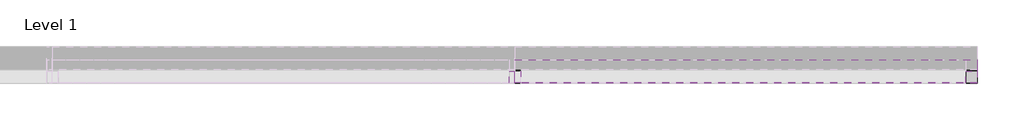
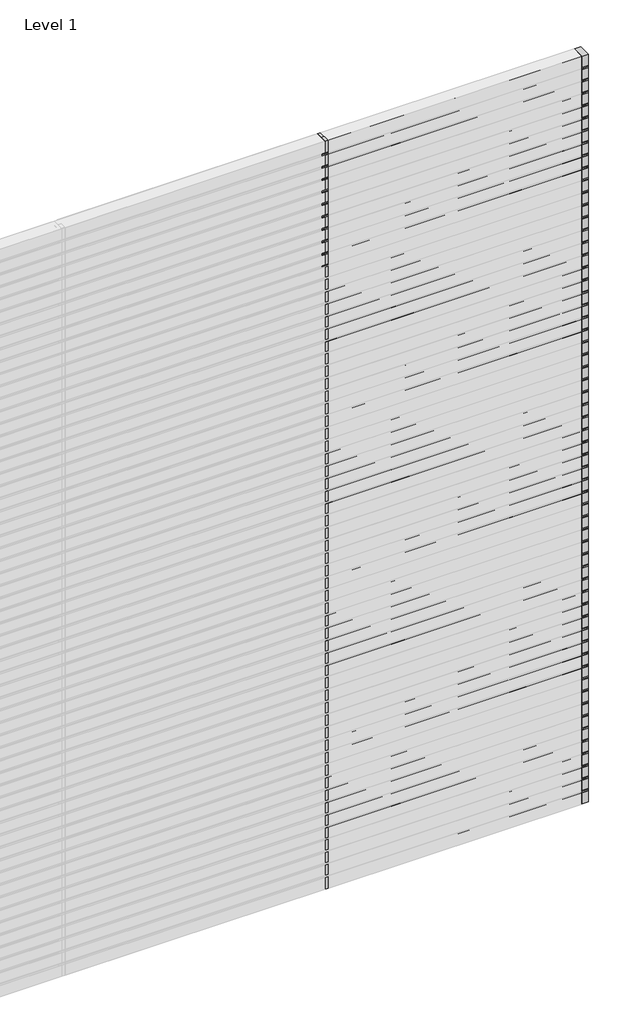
# One storey, part 6 of 6: 70 members, 60 plates.
"""IFC4 building model written with IfcOpenShell, lengths in millimetres."""

from ifc_helpers import new_model, si_unit, origin, place, context, project, spatial, transform, mapped, element, save
from components import rectangular_mullion_ae434dd9, rectangular_mullion_a3e25429, empty_system_panel_empty_51cbbd14, empty_system_panel_empty_86242385

model = new_model("IFC4")

# Units and contexts
model_context = context("Model", 3, world=origin())
ifc_project = project(units=[si_unit("LENGTHUNIT", "METRE", prefix="MILLI")], contexts=[model_context])

# Site, building, storey
site = spatial("IfcSite", under=ifc_project)
building = spatial("IfcBuilding", under=site)
storey = spatial("IfcBuildingStorey", under=building, Name="Level 1", Elevation=0.0)

# Members
placement = place(None, origin())
rectangular_mullion_shape = rectangular_mullion_ae434dd9(model_context)
element("IfcMember", 1, ObjectType="Rectangular Mullion : RSen_21_CWM_support profile 50x50_gen_duco projects", at=placement, inside=storey, context=model_context, shape_type="MappedRepresentation", body=[
    mapped(rectangular_mullion_shape, transform((4000.0, 3000.0, 5000.0), x_axis=(-1.0, 0.0, 0.0), y_axis=(0.0, 1.0, 0.0), z_axis=(0.0, 0.0, -1.0))),
])
element("IfcMember", 2, ObjectType="Rectangular Mullion : RSen_21_CWM_support profile 50x50_gen_duco projects", at=placement, inside=storey, context=model_context, shape_type="MappedRepresentation", body=[
    mapped(rectangular_mullion_shape, transform((4000.0, 3000.0, 5100.0), x_axis=(-1.0, 0.0, 0.0), y_axis=(0.0, 1.0, 0.0), z_axis=(0.0, 0.0, -1.0))),
])
element("IfcMember", 3, ObjectType="Rectangular Mullion : RSen_21_CWM_support profile 50x50_gen_duco projects", at=placement, inside=storey, context=model_context, shape_type="MappedRepresentation", body=[
    mapped(rectangular_mullion_shape, transform((4000.0, 3000.0, 5200.0), x_axis=(-1.0, 0.0, 0.0), y_axis=(0.0, 1.0, 0.0), z_axis=(0.0, 0.0, -1.0))),
])
element("IfcMember", 4, ObjectType="Rectangular Mullion : RSen_21_CWM_support profile 50x50_gen_duco projects", at=placement, inside=storey, context=model_context, shape_type="MappedRepresentation", body=[
    mapped(rectangular_mullion_shape, transform((4000.0, 3000.0, 5300.0), x_axis=(-1.0, 0.0, 0.0), y_axis=(0.0, 1.0, 0.0), z_axis=(0.0, 0.0, -1.0))),
])
element("IfcMember", 5, ObjectType="Rectangular Mullion : RSen_21_CWM_support profile 50x50_gen_duco projects", at=placement, inside=storey, context=model_context, shape_type="MappedRepresentation", body=[
    mapped(rectangular_mullion_shape, transform((4000.0, 3000.0, 5400.0), x_axis=(-1.0, 0.0, 0.0), y_axis=(0.0, 1.0, 0.0), z_axis=(0.0, 0.0, -1.0))),
])
element("IfcMember", 6, ObjectType="Rectangular Mullion : RSen_21_CWM_support profile 50x50_gen_duco projects", at=placement, inside=storey, context=model_context, shape_type="MappedRepresentation", body=[
    mapped(rectangular_mullion_shape, transform((4000.0, 3000.0, 5500.0), x_axis=(-1.0, 0.0, 0.0), y_axis=(0.0, 1.0, 0.0), z_axis=(0.0, 0.0, -1.0))),
])
element("IfcMember", 7, ObjectType="Rectangular Mullion : RSen_21_CWM_support profile 50x50_gen_duco projects", at=placement, inside=storey, context=model_context, shape_type="MappedRepresentation", body=[
    mapped(rectangular_mullion_shape, transform((4000.0, 3000.0, 5600.0), x_axis=(-1.0, 0.0, 0.0), y_axis=(0.0, 1.0, 0.0), z_axis=(0.0, 0.0, -1.0))),
])
element("IfcMember", 8, ObjectType="Rectangular Mullion : RSen_21_CWM_support profile 50x50_gen_duco projects", at=placement, inside=storey, context=model_context, shape_type="MappedRepresentation", body=[
    mapped(rectangular_mullion_shape, transform((4000.0, 3000.0, 5700.0), x_axis=(-1.0, 0.0, 0.0), y_axis=(0.0, 1.0, 0.0), z_axis=(0.0, 0.0, -1.0))),
])
element("IfcMember", 9, ObjectType="Rectangular Mullion : RSen_21_CWM_support profile 50x50_gen_duco projects", at=placement, inside=storey, context=model_context, shape_type="MappedRepresentation", body=[
    mapped(rectangular_mullion_shape, transform((4000.0, 3000.0, 5800.0), x_axis=(-1.0, 0.0, 0.0), y_axis=(0.0, 1.0, 0.0), z_axis=(0.0, 0.0, -1.0))),
])
element("IfcMember", 10, ObjectType="Rectangular Mullion : RSen_21_CWM_support profile 50x50_gen_duco projects", at=placement, inside=storey, context=model_context, shape_type="MappedRepresentation", body=[
    mapped(rectangular_mullion_shape, transform((4000.0, 3000.0, 5900.0), x_axis=(-1.0, 0.0, 0.0), y_axis=(0.0, 1.0, 0.0), z_axis=(0.0, 0.0, -1.0))),
])
rectangular_mullion_2_shape = rectangular_mullion_a3e25429(model_context)
element("IfcMember", 11, ObjectType="Rectangular Mullion : RSen_21_CWM_support profile 50x50 - right_gen_duco projects", at=placement, inside=storey, context=model_context, shape_type="MappedRepresentation", body=[
    mapped(rectangular_mullion_2_shape, transform((6000.0, 3000.0, 6000.0), x_axis=(1.0, 0.0, 0.0), y_axis=(0.0, 1.0, 0.0), z_axis=(0.0, 0.0, 1.0))),
])
element("IfcMember", 12, ObjectType="Rectangular Mullion : RSen_21_CWM_support profile 50x50 - right_gen_duco projects", at=placement, inside=storey, context=model_context, shape_type="MappedRepresentation", body=[
    mapped(rectangular_mullion_2_shape, transform((6000.0, 3000.0, 100.0), x_axis=(1.0, 0.0, 0.0), y_axis=(0.0, 1.0, 0.0), z_axis=(0.0, 0.0, 1.0))),
])
element("IfcMember", 13, ObjectType="Rectangular Mullion : RSen_21_CWM_support profile 50x50 - right_gen_duco projects", at=placement, inside=storey, context=model_context, shape_type="MappedRepresentation", body=[
    mapped(rectangular_mullion_2_shape, transform((6000.0, 3000.0, 200.0), x_axis=(1.0, 0.0, 0.0), y_axis=(0.0, 1.0, 0.0), z_axis=(0.0, 0.0, 1.0))),
])
element("IfcMember", 14, ObjectType="Rectangular Mullion : RSen_21_CWM_support profile 50x50 - right_gen_duco projects", at=placement, inside=storey, context=model_context, shape_type="MappedRepresentation", body=[
    mapped(rectangular_mullion_2_shape, transform((6000.0, 3000.0, 300.0), x_axis=(1.0, 0.0, 0.0), y_axis=(0.0, 1.0, 0.0), z_axis=(0.0, 0.0, 1.0))),
])
element("IfcMember", 15, ObjectType="Rectangular Mullion : RSen_21_CWM_support profile 50x50 - right_gen_duco projects", at=placement, inside=storey, context=model_context, shape_type="MappedRepresentation", body=[
    mapped(rectangular_mullion_2_shape, transform((6000.0, 3000.0, 400.0), x_axis=(1.0, 0.0, 0.0), y_axis=(0.0, 1.0, 0.0), z_axis=(0.0, 0.0, 1.0))),
])
element("IfcMember", 16, ObjectType="Rectangular Mullion : RSen_21_CWM_support profile 50x50 - right_gen_duco projects", at=placement, inside=storey, context=model_context, shape_type="MappedRepresentation", body=[
    mapped(rectangular_mullion_2_shape, transform((6000.0, 3000.0, 500.0), x_axis=(1.0, 0.0, 0.0), y_axis=(0.0, 1.0, 0.0), z_axis=(0.0, 0.0, 1.0))),
])
element("IfcMember", 17, ObjectType="Rectangular Mullion : RSen_21_CWM_support profile 50x50 - right_gen_duco projects", at=placement, inside=storey, context=model_context, shape_type="MappedRepresentation", body=[
    mapped(rectangular_mullion_2_shape, transform((6000.0, 3000.0, 600.0), x_axis=(1.0, 0.0, 0.0), y_axis=(0.0, 1.0, 0.0), z_axis=(0.0, 0.0, 1.0))),
])
element("IfcMember", 18, ObjectType="Rectangular Mullion : RSen_21_CWM_support profile 50x50 - right_gen_duco projects", at=placement, inside=storey, context=model_context, shape_type="MappedRepresentation", body=[
    mapped(rectangular_mullion_2_shape, transform((6000.0, 3000.0, 700.0), x_axis=(1.0, 0.0, 0.0), y_axis=(0.0, 1.0, 0.0), z_axis=(0.0, 0.0, 1.0))),
])
element("IfcMember", 19, ObjectType="Rectangular Mullion : RSen_21_CWM_support profile 50x50 - right_gen_duco projects", at=placement, inside=storey, context=model_context, shape_type="MappedRepresentation", body=[
    mapped(rectangular_mullion_2_shape, transform((6000.0, 3000.0, 800.0), x_axis=(1.0, 0.0, 0.0), y_axis=(0.0, 1.0, 0.0), z_axis=(0.0, 0.0, 1.0))),
])
element("IfcMember", 20, ObjectType="Rectangular Mullion : RSen_21_CWM_support profile 50x50 - right_gen_duco projects", at=placement, inside=storey, context=model_context, shape_type="MappedRepresentation", body=[
    mapped(rectangular_mullion_2_shape, transform((6000.0, 3000.0, 900.0), x_axis=(1.0, 0.0, 0.0), y_axis=(0.0, 1.0, 0.0), z_axis=(0.0, 0.0, 1.0))),
])
element("IfcMember", 21, ObjectType="Rectangular Mullion : RSen_21_CWM_support profile 50x50 - right_gen_duco projects", at=placement, inside=storey, context=model_context, shape_type="MappedRepresentation", body=[
    mapped(rectangular_mullion_2_shape, transform((6000.0, 3000.0, 1000.0), x_axis=(1.0, 0.0, 0.0), y_axis=(0.0, 1.0, 0.0), z_axis=(0.0, 0.0, 1.0))),
])
element("IfcMember", 22, ObjectType="Rectangular Mullion : RSen_21_CWM_support profile 50x50 - right_gen_duco projects", at=placement, inside=storey, context=model_context, shape_type="MappedRepresentation", body=[
    mapped(rectangular_mullion_2_shape, transform((6000.0, 3000.0, 1100.0), x_axis=(1.0, 0.0, 0.0), y_axis=(0.0, 1.0, 0.0), z_axis=(0.0, 0.0, 1.0))),
])
element("IfcMember", 23, ObjectType="Rectangular Mullion : RSen_21_CWM_support profile 50x50 - right_gen_duco projects", at=placement, inside=storey, context=model_context, shape_type="MappedRepresentation", body=[
    mapped(rectangular_mullion_2_shape, transform((6000.0, 3000.0, 1200.0), x_axis=(1.0, 0.0, 0.0), y_axis=(0.0, 1.0, 0.0), z_axis=(0.0, 0.0, 1.0))),
])
element("IfcMember", 24, ObjectType="Rectangular Mullion : RSen_21_CWM_support profile 50x50 - right_gen_duco projects", at=placement, inside=storey, context=model_context, shape_type="MappedRepresentation", body=[
    mapped(rectangular_mullion_2_shape, transform((6000.0, 3000.0, 1300.0), x_axis=(1.0, 0.0, 0.0), y_axis=(0.0, 1.0, 0.0), z_axis=(0.0, 0.0, 1.0))),
])
element("IfcMember", 25, ObjectType="Rectangular Mullion : RSen_21_CWM_support profile 50x50 - right_gen_duco projects", at=placement, inside=storey, context=model_context, shape_type="MappedRepresentation", body=[
    mapped(rectangular_mullion_2_shape, transform((6000.0, 3000.0, 1400.0), x_axis=(1.0, 0.0, 0.0), y_axis=(0.0, 1.0, 0.0), z_axis=(0.0, 0.0, 1.0))),
])
element("IfcMember", 26, ObjectType="Rectangular Mullion : RSen_21_CWM_support profile 50x50 - right_gen_duco projects", at=placement, inside=storey, context=model_context, shape_type="MappedRepresentation", body=[
    mapped(rectangular_mullion_2_shape, transform((6000.0, 3000.0, 1500.0), x_axis=(1.0, 0.0, 0.0), y_axis=(0.0, 1.0, 0.0), z_axis=(0.0, 0.0, 1.0))),
])
element("IfcMember", 27, ObjectType="Rectangular Mullion : RSen_21_CWM_support profile 50x50 - right_gen_duco projects", at=placement, inside=storey, context=model_context, shape_type="MappedRepresentation", body=[
    mapped(rectangular_mullion_2_shape, transform((6000.0, 3000.0, 1600.0), x_axis=(1.0, 0.0, 0.0), y_axis=(0.0, 1.0, 0.0), z_axis=(0.0, 0.0, 1.0))),
])
element("IfcMember", 28, ObjectType="Rectangular Mullion : RSen_21_CWM_support profile 50x50 - right_gen_duco projects", at=placement, inside=storey, context=model_context, shape_type="MappedRepresentation", body=[
    mapped(rectangular_mullion_2_shape, transform((6000.0, 3000.0, 1700.0), x_axis=(1.0, 0.0, 0.0), y_axis=(0.0, 1.0, 0.0), z_axis=(0.0, 0.0, 1.0))),
])
element("IfcMember", 29, ObjectType="Rectangular Mullion : RSen_21_CWM_support profile 50x50 - right_gen_duco projects", at=placement, inside=storey, context=model_context, shape_type="MappedRepresentation", body=[
    mapped(rectangular_mullion_2_shape, transform((6000.0, 3000.0, 1800.0), x_axis=(1.0, 0.0, 0.0), y_axis=(0.0, 1.0, 0.0), z_axis=(0.0, 0.0, 1.0))),
])
element("IfcMember", 30, ObjectType="Rectangular Mullion : RSen_21_CWM_support profile 50x50 - right_gen_duco projects", at=placement, inside=storey, context=model_context, shape_type="MappedRepresentation", body=[
    mapped(rectangular_mullion_2_shape, transform((6000.0, 3000.0, 1900.0), x_axis=(1.0, 0.0, 0.0), y_axis=(0.0, 1.0, 0.0), z_axis=(0.0, 0.0, 1.0))),
])
element("IfcMember", 31, ObjectType="Rectangular Mullion : RSen_21_CWM_support profile 50x50 - right_gen_duco projects", at=placement, inside=storey, context=model_context, shape_type="MappedRepresentation", body=[
    mapped(rectangular_mullion_2_shape, transform((6000.0, 3000.0, 2000.0), x_axis=(1.0, 0.0, 0.0), y_axis=(0.0, 1.0, 0.0), z_axis=(0.0, 0.0, 1.0))),
])
element("IfcMember", 32, ObjectType="Rectangular Mullion : RSen_21_CWM_support profile 50x50 - right_gen_duco projects", at=placement, inside=storey, context=model_context, shape_type="MappedRepresentation", body=[
    mapped(rectangular_mullion_2_shape, transform((6000.0, 3000.0, 2100.0), x_axis=(1.0, 0.0, 0.0), y_axis=(0.0, 1.0, 0.0), z_axis=(0.0, 0.0, 1.0))),
])
element("IfcMember", 33, ObjectType="Rectangular Mullion : RSen_21_CWM_support profile 50x50 - right_gen_duco projects", at=placement, inside=storey, context=model_context, shape_type="MappedRepresentation", body=[
    mapped(rectangular_mullion_2_shape, transform((6000.0, 3000.0, 2200.0), x_axis=(1.0, 0.0, 0.0), y_axis=(0.0, 1.0, 0.0), z_axis=(0.0, 0.0, 1.0))),
])
element("IfcMember", 34, ObjectType="Rectangular Mullion : RSen_21_CWM_support profile 50x50 - right_gen_duco projects", at=placement, inside=storey, context=model_context, shape_type="MappedRepresentation", body=[
    mapped(rectangular_mullion_2_shape, transform((6000.0, 3000.0, 2300.0), x_axis=(1.0, 0.0, 0.0), y_axis=(0.0, 1.0, 0.0), z_axis=(0.0, 0.0, 1.0))),
])
element("IfcMember", 35, ObjectType="Rectangular Mullion : RSen_21_CWM_support profile 50x50 - right_gen_duco projects", at=placement, inside=storey, context=model_context, shape_type="MappedRepresentation", body=[
    mapped(rectangular_mullion_2_shape, transform((6000.0, 3000.0, 2400.0), x_axis=(1.0, 0.0, 0.0), y_axis=(0.0, 1.0, 0.0), z_axis=(0.0, 0.0, 1.0))),
])
element("IfcMember", 36, ObjectType="Rectangular Mullion : RSen_21_CWM_support profile 50x50 - right_gen_duco projects", at=placement, inside=storey, context=model_context, shape_type="MappedRepresentation", body=[
    mapped(rectangular_mullion_2_shape, transform((6000.0, 3000.0, 2500.0), x_axis=(1.0, 0.0, 0.0), y_axis=(0.0, 1.0, 0.0), z_axis=(0.0, 0.0, 1.0))),
])
element("IfcMember", 37, ObjectType="Rectangular Mullion : RSen_21_CWM_support profile 50x50 - right_gen_duco projects", at=placement, inside=storey, context=model_context, shape_type="MappedRepresentation", body=[
    mapped(rectangular_mullion_2_shape, transform((6000.0, 3000.0, 2600.0), x_axis=(1.0, 0.0, 0.0), y_axis=(0.0, 1.0, 0.0), z_axis=(0.0, 0.0, 1.0))),
])
element("IfcMember", 38, ObjectType="Rectangular Mullion : RSen_21_CWM_support profile 50x50 - right_gen_duco projects", at=placement, inside=storey, context=model_context, shape_type="MappedRepresentation", body=[
    mapped(rectangular_mullion_2_shape, transform((6000.0, 3000.0, 2700.0), x_axis=(1.0, 0.0, 0.0), y_axis=(0.0, 1.0, 0.0), z_axis=(0.0, 0.0, 1.0))),
])
element("IfcMember", 39, ObjectType="Rectangular Mullion : RSen_21_CWM_support profile 50x50 - right_gen_duco projects", at=placement, inside=storey, context=model_context, shape_type="MappedRepresentation", body=[
    mapped(rectangular_mullion_2_shape, transform((6000.0, 3000.0, 2800.0), x_axis=(1.0, 0.0, 0.0), y_axis=(0.0, 1.0, 0.0), z_axis=(0.0, 0.0, 1.0))),
])
element("IfcMember", 40, ObjectType="Rectangular Mullion : RSen_21_CWM_support profile 50x50 - right_gen_duco projects", at=placement, inside=storey, context=model_context, shape_type="MappedRepresentation", body=[
    mapped(rectangular_mullion_2_shape, transform((6000.0, 3000.0, 2900.0), x_axis=(1.0, 0.0, 0.0), y_axis=(0.0, 1.0, 0.0), z_axis=(0.0, 0.0, 1.0))),
])
element("IfcMember", 41, ObjectType="Rectangular Mullion : RSen_21_CWM_support profile 50x50 - right_gen_duco projects", at=placement, inside=storey, context=model_context, shape_type="MappedRepresentation", body=[
    mapped(rectangular_mullion_2_shape, transform((6000.0, 3000.0, 3000.0), x_axis=(1.0, 0.0, 0.0), y_axis=(0.0, 1.0, 0.0), z_axis=(0.0, 0.0, 1.0))),
])
element("IfcMember", 42, ObjectType="Rectangular Mullion : RSen_21_CWM_support profile 50x50 - right_gen_duco projects", at=placement, inside=storey, context=model_context, shape_type="MappedRepresentation", body=[
    mapped(rectangular_mullion_2_shape, transform((6000.0, 3000.0, 3100.0), x_axis=(1.0, 0.0, 0.0), y_axis=(0.0, 1.0, 0.0), z_axis=(0.0, 0.0, 1.0))),
])
element("IfcMember", 43, ObjectType="Rectangular Mullion : RSen_21_CWM_support profile 50x50 - right_gen_duco projects", at=placement, inside=storey, context=model_context, shape_type="MappedRepresentation", body=[
    mapped(rectangular_mullion_2_shape, transform((6000.0, 3000.0, 3200.0), x_axis=(1.0, 0.0, 0.0), y_axis=(0.0, 1.0, 0.0), z_axis=(0.0, 0.0, 1.0))),
])
element("IfcMember", 44, ObjectType="Rectangular Mullion : RSen_21_CWM_support profile 50x50 - right_gen_duco projects", at=placement, inside=storey, context=model_context, shape_type="MappedRepresentation", body=[
    mapped(rectangular_mullion_2_shape, transform((6000.0, 3000.0, 3300.0), x_axis=(1.0, 0.0, 0.0), y_axis=(0.0, 1.0, 0.0), z_axis=(0.0, 0.0, 1.0))),
])
element("IfcMember", 45, ObjectType="Rectangular Mullion : RSen_21_CWM_support profile 50x50 - right_gen_duco projects", at=placement, inside=storey, context=model_context, shape_type="MappedRepresentation", body=[
    mapped(rectangular_mullion_2_shape, transform((6000.0, 3000.0, 3400.0), x_axis=(1.0, 0.0, 0.0), y_axis=(0.0, 1.0, 0.0), z_axis=(0.0, 0.0, 1.0))),
])
element("IfcMember", 46, ObjectType="Rectangular Mullion : RSen_21_CWM_support profile 50x50 - right_gen_duco projects", at=placement, inside=storey, context=model_context, shape_type="MappedRepresentation", body=[
    mapped(rectangular_mullion_2_shape, transform((6000.0, 3000.0, 3500.0), x_axis=(1.0, 0.0, 0.0), y_axis=(0.0, 1.0, 0.0), z_axis=(0.0, 0.0, 1.0))),
])
element("IfcMember", 47, ObjectType="Rectangular Mullion : RSen_21_CWM_support profile 50x50 - right_gen_duco projects", at=placement, inside=storey, context=model_context, shape_type="MappedRepresentation", body=[
    mapped(rectangular_mullion_2_shape, transform((6000.0, 3000.0, 3600.0), x_axis=(1.0, 0.0, 0.0), y_axis=(0.0, 1.0, 0.0), z_axis=(0.0, 0.0, 1.0))),
])
element("IfcMember", 48, ObjectType="Rectangular Mullion : RSen_21_CWM_support profile 50x50 - right_gen_duco projects", at=placement, inside=storey, context=model_context, shape_type="MappedRepresentation", body=[
    mapped(rectangular_mullion_2_shape, transform((6000.0, 3000.0, 3700.0), x_axis=(1.0, 0.0, 0.0), y_axis=(0.0, 1.0, 0.0), z_axis=(0.0, 0.0, 1.0))),
])
element("IfcMember", 49, ObjectType="Rectangular Mullion : RSen_21_CWM_support profile 50x50 - right_gen_duco projects", at=placement, inside=storey, context=model_context, shape_type="MappedRepresentation", body=[
    mapped(rectangular_mullion_2_shape, transform((6000.0, 3000.0, 3800.0), x_axis=(1.0, 0.0, 0.0), y_axis=(0.0, 1.0, 0.0), z_axis=(0.0, 0.0, 1.0))),
])
element("IfcMember", 50, ObjectType="Rectangular Mullion : RSen_21_CWM_support profile 50x50 - right_gen_duco projects", at=placement, inside=storey, context=model_context, shape_type="MappedRepresentation", body=[
    mapped(rectangular_mullion_2_shape, transform((6000.0, 3000.0, 3900.0), x_axis=(1.0, 0.0, 0.0), y_axis=(0.0, 1.0, 0.0), z_axis=(0.0, 0.0, 1.0))),
])
element("IfcMember", 51, ObjectType="Rectangular Mullion : RSen_21_CWM_support profile 50x50 - right_gen_duco projects", at=placement, inside=storey, context=model_context, shape_type="MappedRepresentation", body=[
    mapped(rectangular_mullion_2_shape, transform((6000.0, 3000.0, 4000.0), x_axis=(1.0, 0.0, 0.0), y_axis=(0.0, 1.0, 0.0), z_axis=(0.0, 0.0, 1.0))),
])
element("IfcMember", 52, ObjectType="Rectangular Mullion : RSen_21_CWM_support profile 50x50 - right_gen_duco projects", at=placement, inside=storey, context=model_context, shape_type="MappedRepresentation", body=[
    mapped(rectangular_mullion_2_shape, transform((6000.0, 3000.0, 4100.0), x_axis=(1.0, 0.0, 0.0), y_axis=(0.0, 1.0, 0.0), z_axis=(0.0, 0.0, 1.0))),
])
element("IfcMember", 53, ObjectType="Rectangular Mullion : RSen_21_CWM_support profile 50x50 - right_gen_duco projects", at=placement, inside=storey, context=model_context, shape_type="MappedRepresentation", body=[
    mapped(rectangular_mullion_2_shape, transform((6000.0, 3000.0, 4200.0), x_axis=(1.0, 0.0, 0.0), y_axis=(0.0, 1.0, 0.0), z_axis=(0.0, 0.0, 1.0))),
])
element("IfcMember", 54, ObjectType="Rectangular Mullion : RSen_21_CWM_support profile 50x50 - right_gen_duco projects", at=placement, inside=storey, context=model_context, shape_type="MappedRepresentation", body=[
    mapped(rectangular_mullion_2_shape, transform((6000.0, 3000.0, 4300.0), x_axis=(1.0, 0.0, 0.0), y_axis=(0.0, 1.0, 0.0), z_axis=(0.0, 0.0, 1.0))),
])
element("IfcMember", 55, ObjectType="Rectangular Mullion : RSen_21_CWM_support profile 50x50 - right_gen_duco projects", at=placement, inside=storey, context=model_context, shape_type="MappedRepresentation", body=[
    mapped(rectangular_mullion_2_shape, transform((6000.0, 3000.0, 4400.0), x_axis=(1.0, 0.0, 0.0), y_axis=(0.0, 1.0, 0.0), z_axis=(0.0, 0.0, 1.0))),
])
element("IfcMember", 56, ObjectType="Rectangular Mullion : RSen_21_CWM_support profile 50x50 - right_gen_duco projects", at=placement, inside=storey, context=model_context, shape_type="MappedRepresentation", body=[
    mapped(rectangular_mullion_2_shape, transform((6000.0, 3000.0, 4500.0), x_axis=(1.0, 0.0, 0.0), y_axis=(0.0, 1.0, 0.0), z_axis=(0.0, 0.0, 1.0))),
])
element("IfcMember", 57, ObjectType="Rectangular Mullion : RSen_21_CWM_support profile 50x50 - right_gen_duco projects", at=placement, inside=storey, context=model_context, shape_type="MappedRepresentation", body=[
    mapped(rectangular_mullion_2_shape, transform((6000.0, 3000.0, 4600.0), x_axis=(1.0, 0.0, 0.0), y_axis=(0.0, 1.0, 0.0), z_axis=(0.0, 0.0, 1.0))),
])
element("IfcMember", 58, ObjectType="Rectangular Mullion : RSen_21_CWM_support profile 50x50 - right_gen_duco projects", at=placement, inside=storey, context=model_context, shape_type="MappedRepresentation", body=[
    mapped(rectangular_mullion_2_shape, transform((6000.0, 3000.0, 4700.0), x_axis=(1.0, 0.0, 0.0), y_axis=(0.0, 1.0, 0.0), z_axis=(0.0, 0.0, 1.0))),
])
element("IfcMember", 59, ObjectType="Rectangular Mullion : RSen_21_CWM_support profile 50x50 - right_gen_duco projects", at=placement, inside=storey, context=model_context, shape_type="MappedRepresentation", body=[
    mapped(rectangular_mullion_2_shape, transform((6000.0, 3000.0, 4800.0), x_axis=(1.0, 0.0, 0.0), y_axis=(0.0, 1.0, 0.0), z_axis=(0.0, 0.0, 1.0))),
])
element("IfcMember", 60, ObjectType="Rectangular Mullion : RSen_21_CWM_support profile 50x50 - right_gen_duco projects", at=placement, inside=storey, context=model_context, shape_type="MappedRepresentation", body=[
    mapped(rectangular_mullion_2_shape, transform((6000.0, 3000.0, 4900.0), x_axis=(1.0, 0.0, 0.0), y_axis=(0.0, 1.0, 0.0), z_axis=(0.0, 0.0, 1.0))),
])
element("IfcMember", 61, ObjectType="Rectangular Mullion : RSen_21_CWM_support profile 50x50 - right_gen_duco projects", at=placement, inside=storey, context=model_context, shape_type="MappedRepresentation", body=[
    mapped(rectangular_mullion_2_shape, transform((6000.0, 3000.0, 5000.0), x_axis=(1.0, 0.0, 0.0), y_axis=(0.0, 1.0, 0.0), z_axis=(0.0, 0.0, 1.0))),
])
element("IfcMember", 62, ObjectType="Rectangular Mullion : RSen_21_CWM_support profile 50x50 - right_gen_duco projects", at=placement, inside=storey, context=model_context, shape_type="MappedRepresentation", body=[
    mapped(rectangular_mullion_2_shape, transform((6000.0, 3000.0, 5100.0), x_axis=(1.0, 0.0, 0.0), y_axis=(0.0, 1.0, 0.0), z_axis=(0.0, 0.0, 1.0))),
])
element("IfcMember", 63, ObjectType="Rectangular Mullion : RSen_21_CWM_support profile 50x50 - right_gen_duco projects", at=placement, inside=storey, context=model_context, shape_type="MappedRepresentation", body=[
    mapped(rectangular_mullion_2_shape, transform((6000.0, 3000.0, 5200.0), x_axis=(1.0, 0.0, 0.0), y_axis=(0.0, 1.0, 0.0), z_axis=(0.0, 0.0, 1.0))),
])
element("IfcMember", 64, ObjectType="Rectangular Mullion : RSen_21_CWM_support profile 50x50 - right_gen_duco projects", at=placement, inside=storey, context=model_context, shape_type="MappedRepresentation", body=[
    mapped(rectangular_mullion_2_shape, transform((6000.0, 3000.0, 5300.0), x_axis=(1.0, 0.0, 0.0), y_axis=(0.0, 1.0, 0.0), z_axis=(0.0, 0.0, 1.0))),
])
element("IfcMember", 65, ObjectType="Rectangular Mullion : RSen_21_CWM_support profile 50x50 - right_gen_duco projects", at=placement, inside=storey, context=model_context, shape_type="MappedRepresentation", body=[
    mapped(rectangular_mullion_2_shape, transform((6000.0, 3000.0, 5400.0), x_axis=(1.0, 0.0, 0.0), y_axis=(0.0, 1.0, 0.0), z_axis=(0.0, 0.0, 1.0))),
])
element("IfcMember", 66, ObjectType="Rectangular Mullion : RSen_21_CWM_support profile 50x50 - right_gen_duco projects", at=placement, inside=storey, context=model_context, shape_type="MappedRepresentation", body=[
    mapped(rectangular_mullion_2_shape, transform((6000.0, 3000.0, 5500.0), x_axis=(1.0, 0.0, 0.0), y_axis=(0.0, 1.0, 0.0), z_axis=(0.0, 0.0, 1.0))),
])
element("IfcMember", 67, ObjectType="Rectangular Mullion : RSen_21_CWM_support profile 50x50 - right_gen_duco projects", at=placement, inside=storey, context=model_context, shape_type="MappedRepresentation", body=[
    mapped(rectangular_mullion_2_shape, transform((6000.0, 3000.0, 5600.0), x_axis=(1.0, 0.0, 0.0), y_axis=(0.0, 1.0, 0.0), z_axis=(0.0, 0.0, 1.0))),
])
element("IfcMember", 68, ObjectType="Rectangular Mullion : RSen_21_CWM_support profile 50x50 - right_gen_duco projects", at=placement, inside=storey, context=model_context, shape_type="MappedRepresentation", body=[
    mapped(rectangular_mullion_2_shape, transform((6000.0, 3000.0, 5700.0), x_axis=(1.0, 0.0, 0.0), y_axis=(0.0, 1.0, 0.0), z_axis=(0.0, 0.0, 1.0))),
])
element("IfcMember", 69, ObjectType="Rectangular Mullion : RSen_21_CWM_support profile 50x50 - right_gen_duco projects", at=placement, inside=storey, context=model_context, shape_type="MappedRepresentation", body=[
    mapped(rectangular_mullion_2_shape, transform((6000.0, 3000.0, 5800.0), x_axis=(1.0, 0.0, 0.0), y_axis=(0.0, 1.0, 0.0), z_axis=(0.0, 0.0, 1.0))),
])
element("IfcMember", 70, ObjectType="Rectangular Mullion : RSen_21_CWM_support profile 50x50 - right_gen_duco projects", at=placement, inside=storey, context=model_context, shape_type="MappedRepresentation", body=[
    mapped(rectangular_mullion_2_shape, transform((6000.0, 3000.0, 5900.0), x_axis=(1.0, 0.0, 0.0), y_axis=(0.0, 1.0, 0.0), z_axis=(0.0, 0.0, 1.0))),
])

# Plates
empty_system_panel_empty_shape = empty_system_panel_empty_51cbbd14(model_context)
element("IfcPlate", 71, ObjectType="Empty System Panel : Empty", at=placement, inside=storey, context=model_context, shape_type="MappedRepresentation", body=[
    mapped(empty_system_panel_empty_shape, transform((5000.0, 3000.0, 0.0), x_axis=(-1.0, 0.0, 0.0), y_axis=(0.0, -1.0, 0.0), z_axis=(0.0, 0.0, 1.0))),
])
element("IfcPlate", 72, ObjectType="Empty System Panel : Empty", at=placement, inside=storey, context=model_context, shape_type="MappedRepresentation", body=[
    mapped(empty_system_panel_empty_shape, transform((5000.0, 3000.0, 5910.0), x_axis=(-1.0, 0.0, 0.0), y_axis=(0.0, -1.0, 0.0), z_axis=(0.0, 0.0, 1.0))),
])
empty_system_panel_empty_2_shape = empty_system_panel_empty_86242385(model_context)
element("IfcPlate", 73, ObjectType="Empty System Panel : Empty", at=placement, inside=storey, context=model_context, shape_type="MappedRepresentation", body=[
    mapped(empty_system_panel_empty_2_shape, transform((5000.0, 3000.0, 110.0), x_axis=(-1.0, 0.0, 0.0), y_axis=(0.0, -1.0, 0.0), z_axis=(0.0, 0.0, 1.0))),
])
element("IfcPlate", 74, ObjectType="Empty System Panel : Empty", at=placement, inside=storey, context=model_context, shape_type="MappedRepresentation", body=[
    mapped(empty_system_panel_empty_2_shape, transform((5000.0, 3000.0, 210.0), x_axis=(-1.0, 0.0, 0.0), y_axis=(0.0, -1.0, 0.0), z_axis=(0.0, 0.0, 1.0))),
])
element("IfcPlate", 75, ObjectType="Empty System Panel : Empty", at=placement, inside=storey, context=model_context, shape_type="MappedRepresentation", body=[
    mapped(empty_system_panel_empty_2_shape, transform((5000.0, 3000.0, 310.0), x_axis=(-1.0, 0.0, 0.0), y_axis=(0.0, -1.0, 0.0), z_axis=(0.0, 0.0, 1.0))),
])
element("IfcPlate", 76, ObjectType="Empty System Panel : Empty", at=placement, inside=storey, context=model_context, shape_type="MappedRepresentation", body=[
    mapped(empty_system_panel_empty_2_shape, transform((5000.0, 3000.0, 410.0), x_axis=(-1.0, 0.0, 0.0), y_axis=(0.0, -1.0, 0.0), z_axis=(0.0, 0.0, 1.0))),
])
element("IfcPlate", 77, ObjectType="Empty System Panel : Empty", at=placement, inside=storey, context=model_context, shape_type="MappedRepresentation", body=[
    mapped(empty_system_panel_empty_2_shape, transform((5000.0, 3000.0, 510.0), x_axis=(-1.0, 0.0, 0.0), y_axis=(0.0, -1.0, 0.0), z_axis=(0.0, 0.0, 1.0))),
])
element("IfcPlate", 78, ObjectType="Empty System Panel : Empty", at=placement, inside=storey, context=model_context, shape_type="MappedRepresentation", body=[
    mapped(empty_system_panel_empty_2_shape, transform((5000.0, 3000.0, 610.0), x_axis=(-1.0, 0.0, 0.0), y_axis=(0.0, -1.0, 0.0), z_axis=(0.0, 0.0, 1.0))),
])
element("IfcPlate", 79, ObjectType="Empty System Panel : Empty", at=placement, inside=storey, context=model_context, shape_type="MappedRepresentation", body=[
    mapped(empty_system_panel_empty_2_shape, transform((5000.0, 3000.0, 710.0), x_axis=(-1.0, 0.0, 0.0), y_axis=(0.0, -1.0, 0.0), z_axis=(0.0, 0.0, 1.0))),
])
element("IfcPlate", 80, ObjectType="Empty System Panel : Empty", at=placement, inside=storey, context=model_context, shape_type="MappedRepresentation", body=[
    mapped(empty_system_panel_empty_2_shape, transform((5000.0, 3000.0, 810.0), x_axis=(-1.0, 0.0, 0.0), y_axis=(0.0, -1.0, 0.0), z_axis=(0.0, 0.0, 1.0))),
])
element("IfcPlate", 81, ObjectType="Empty System Panel : Empty", at=placement, inside=storey, context=model_context, shape_type="MappedRepresentation", body=[
    mapped(empty_system_panel_empty_2_shape, transform((5000.0, 3000.0, 910.0), x_axis=(-1.0, 0.0, 0.0), y_axis=(0.0, -1.0, 0.0), z_axis=(0.0, 0.0, 1.0))),
])
element("IfcPlate", 82, ObjectType="Empty System Panel : Empty", at=placement, inside=storey, context=model_context, shape_type="MappedRepresentation", body=[
    mapped(empty_system_panel_empty_2_shape, transform((5000.0, 3000.0, 1010.0), x_axis=(-1.0, 0.0, 0.0), y_axis=(0.0, -1.0, 0.0), z_axis=(0.0, 0.0, 1.0))),
])
element("IfcPlate", 83, ObjectType="Empty System Panel : Empty", at=placement, inside=storey, context=model_context, shape_type="MappedRepresentation", body=[
    mapped(empty_system_panel_empty_2_shape, transform((5000.0, 3000.0, 1110.0), x_axis=(-1.0, 0.0, 0.0), y_axis=(0.0, -1.0, 0.0), z_axis=(0.0, 0.0, 1.0))),
])
element("IfcPlate", 84, ObjectType="Empty System Panel : Empty", at=placement, inside=storey, context=model_context, shape_type="MappedRepresentation", body=[
    mapped(empty_system_panel_empty_2_shape, transform((5000.0, 3000.0, 1210.0), x_axis=(-1.0, 0.0, 0.0), y_axis=(0.0, -1.0, 0.0), z_axis=(0.0, 0.0, 1.0))),
])
element("IfcPlate", 85, ObjectType="Empty System Panel : Empty", at=placement, inside=storey, context=model_context, shape_type="MappedRepresentation", body=[
    mapped(empty_system_panel_empty_2_shape, transform((5000.0, 3000.0, 1310.0), x_axis=(-1.0, 0.0, 0.0), y_axis=(0.0, -1.0, 0.0), z_axis=(0.0, 0.0, 1.0))),
])
element("IfcPlate", 86, ObjectType="Empty System Panel : Empty", at=placement, inside=storey, context=model_context, shape_type="MappedRepresentation", body=[
    mapped(empty_system_panel_empty_2_shape, transform((5000.0, 3000.0, 1410.0), x_axis=(-1.0, 0.0, 0.0), y_axis=(0.0, -1.0, 0.0), z_axis=(0.0, 0.0, 1.0))),
])
element("IfcPlate", 87, ObjectType="Empty System Panel : Empty", at=placement, inside=storey, context=model_context, shape_type="MappedRepresentation", body=[
    mapped(empty_system_panel_empty_2_shape, transform((5000.0, 3000.0, 1510.0), x_axis=(-1.0, 0.0, 0.0), y_axis=(0.0, -1.0, 0.0), z_axis=(0.0, 0.0, 1.0))),
])
element("IfcPlate", 88, ObjectType="Empty System Panel : Empty", at=placement, inside=storey, context=model_context, shape_type="MappedRepresentation", body=[
    mapped(empty_system_panel_empty_2_shape, transform((5000.0, 3000.0, 1610.0), x_axis=(-1.0, 0.0, 0.0), y_axis=(0.0, -1.0, 0.0), z_axis=(0.0, 0.0, 1.0))),
])
element("IfcPlate", 89, ObjectType="Empty System Panel : Empty", at=placement, inside=storey, context=model_context, shape_type="MappedRepresentation", body=[
    mapped(empty_system_panel_empty_2_shape, transform((5000.0, 3000.0, 1710.0), x_axis=(-1.0, 0.0, 0.0), y_axis=(0.0, -1.0, 0.0), z_axis=(0.0, 0.0, 1.0))),
])
element("IfcPlate", 90, ObjectType="Empty System Panel : Empty", at=placement, inside=storey, context=model_context, shape_type="MappedRepresentation", body=[
    mapped(empty_system_panel_empty_2_shape, transform((5000.0, 3000.0, 1810.0), x_axis=(-1.0, 0.0, 0.0), y_axis=(0.0, -1.0, 0.0), z_axis=(0.0, 0.0, 1.0))),
])
element("IfcPlate", 91, ObjectType="Empty System Panel : Empty", at=placement, inside=storey, context=model_context, shape_type="MappedRepresentation", body=[
    mapped(empty_system_panel_empty_2_shape, transform((5000.0, 3000.0, 1910.0), x_axis=(-1.0, 0.0, 0.0), y_axis=(0.0, -1.0, 0.0), z_axis=(0.0, 0.0, 1.0))),
])
element("IfcPlate", 92, ObjectType="Empty System Panel : Empty", at=placement, inside=storey, context=model_context, shape_type="MappedRepresentation", body=[
    mapped(empty_system_panel_empty_2_shape, transform((5000.0, 3000.0, 2010.0), x_axis=(-1.0, 0.0, 0.0), y_axis=(0.0, -1.0, 0.0), z_axis=(0.0, 0.0, 1.0))),
])
element("IfcPlate", 93, ObjectType="Empty System Panel : Empty", at=placement, inside=storey, context=model_context, shape_type="MappedRepresentation", body=[
    mapped(empty_system_panel_empty_2_shape, transform((5000.0, 3000.0, 2110.0), x_axis=(-1.0, 0.0, 0.0), y_axis=(0.0, -1.0, 0.0), z_axis=(0.0, 0.0, 1.0))),
])
element("IfcPlate", 94, ObjectType="Empty System Panel : Empty", at=placement, inside=storey, context=model_context, shape_type="MappedRepresentation", body=[
    mapped(empty_system_panel_empty_2_shape, transform((5000.0, 3000.0, 2210.0), x_axis=(-1.0, 0.0, 0.0), y_axis=(0.0, -1.0, 0.0), z_axis=(0.0, 0.0, 1.0))),
])
element("IfcPlate", 95, ObjectType="Empty System Panel : Empty", at=placement, inside=storey, context=model_context, shape_type="MappedRepresentation", body=[
    mapped(empty_system_panel_empty_2_shape, transform((5000.0, 3000.0, 2310.0), x_axis=(-1.0, 0.0, 0.0), y_axis=(0.0, -1.0, 0.0), z_axis=(0.0, 0.0, 1.0))),
])
element("IfcPlate", 96, ObjectType="Empty System Panel : Empty", at=placement, inside=storey, context=model_context, shape_type="MappedRepresentation", body=[
    mapped(empty_system_panel_empty_2_shape, transform((5000.0, 3000.0, 2410.0), x_axis=(-1.0, 0.0, 0.0), y_axis=(0.0, -1.0, 0.0), z_axis=(0.0, 0.0, 1.0))),
])
element("IfcPlate", 97, ObjectType="Empty System Panel : Empty", at=placement, inside=storey, context=model_context, shape_type="MappedRepresentation", body=[
    mapped(empty_system_panel_empty_2_shape, transform((5000.0, 3000.0, 2510.0), x_axis=(-1.0, 0.0, 0.0), y_axis=(0.0, -1.0, 0.0), z_axis=(0.0, 0.0, 1.0))),
])
element("IfcPlate", 98, ObjectType="Empty System Panel : Empty", at=placement, inside=storey, context=model_context, shape_type="MappedRepresentation", body=[
    mapped(empty_system_panel_empty_2_shape, transform((5000.0, 3000.0, 2610.0), x_axis=(-1.0, 0.0, 0.0), y_axis=(0.0, -1.0, 0.0), z_axis=(0.0, 0.0, 1.0))),
])
element("IfcPlate", 99, ObjectType="Empty System Panel : Empty", at=placement, inside=storey, context=model_context, shape_type="MappedRepresentation", body=[
    mapped(empty_system_panel_empty_2_shape, transform((5000.0, 3000.0, 2710.0), x_axis=(-1.0, 0.0, 0.0), y_axis=(0.0, -1.0, 0.0), z_axis=(0.0, 0.0, 1.0))),
])
element("IfcPlate", 100, ObjectType="Empty System Panel : Empty", at=placement, inside=storey, context=model_context, shape_type="MappedRepresentation", body=[
    mapped(empty_system_panel_empty_2_shape, transform((5000.0, 3000.0, 2810.0), x_axis=(-1.0, 0.0, 0.0), y_axis=(0.0, -1.0, 0.0), z_axis=(0.0, 0.0, 1.0))),
])
element("IfcPlate", 101, ObjectType="Empty System Panel : Empty", at=placement, inside=storey, context=model_context, shape_type="MappedRepresentation", body=[
    mapped(empty_system_panel_empty_2_shape, transform((5000.0, 3000.0, 2910.0), x_axis=(-1.0, 0.0, 0.0), y_axis=(0.0, -1.0, 0.0), z_axis=(0.0, 0.0, 1.0))),
])
element("IfcPlate", 102, ObjectType="Empty System Panel : Empty", at=placement, inside=storey, context=model_context, shape_type="MappedRepresentation", body=[
    mapped(empty_system_panel_empty_2_shape, transform((5000.0, 3000.0, 3010.0), x_axis=(-1.0, 0.0, 0.0), y_axis=(0.0, -1.0, 0.0), z_axis=(0.0, 0.0, 1.0))),
])
element("IfcPlate", 103, ObjectType="Empty System Panel : Empty", at=placement, inside=storey, context=model_context, shape_type="MappedRepresentation", body=[
    mapped(empty_system_panel_empty_2_shape, transform((5000.0, 3000.0, 3110.0), x_axis=(-1.0, 0.0, 0.0), y_axis=(0.0, -1.0, 0.0), z_axis=(0.0, 0.0, 1.0))),
])
element("IfcPlate", 104, ObjectType="Empty System Panel : Empty", at=placement, inside=storey, context=model_context, shape_type="MappedRepresentation", body=[
    mapped(empty_system_panel_empty_2_shape, transform((5000.0, 3000.0, 3210.0), x_axis=(-1.0, 0.0, 0.0), y_axis=(0.0, -1.0, 0.0), z_axis=(0.0, 0.0, 1.0))),
])
element("IfcPlate", 105, ObjectType="Empty System Panel : Empty", at=placement, inside=storey, context=model_context, shape_type="MappedRepresentation", body=[
    mapped(empty_system_panel_empty_2_shape, transform((5000.0, 3000.0, 3310.0), x_axis=(-1.0, 0.0, 0.0), y_axis=(0.0, -1.0, 0.0), z_axis=(0.0, 0.0, 1.0))),
])
element("IfcPlate", 106, ObjectType="Empty System Panel : Empty", at=placement, inside=storey, context=model_context, shape_type="MappedRepresentation", body=[
    mapped(empty_system_panel_empty_2_shape, transform((5000.0, 3000.0, 3410.0), x_axis=(-1.0, 0.0, 0.0), y_axis=(0.0, -1.0, 0.0), z_axis=(0.0, 0.0, 1.0))),
])
element("IfcPlate", 107, ObjectType="Empty System Panel : Empty", at=placement, inside=storey, context=model_context, shape_type="MappedRepresentation", body=[
    mapped(empty_system_panel_empty_2_shape, transform((5000.0, 3000.0, 3510.0), x_axis=(-1.0, 0.0, 0.0), y_axis=(0.0, -1.0, 0.0), z_axis=(0.0, 0.0, 1.0))),
])
element("IfcPlate", 108, ObjectType="Empty System Panel : Empty", at=placement, inside=storey, context=model_context, shape_type="MappedRepresentation", body=[
    mapped(empty_system_panel_empty_2_shape, transform((5000.0, 3000.0, 3610.0), x_axis=(-1.0, 0.0, 0.0), y_axis=(0.0, -1.0, 0.0), z_axis=(0.0, 0.0, 1.0))),
])
element("IfcPlate", 109, ObjectType="Empty System Panel : Empty", at=placement, inside=storey, context=model_context, shape_type="MappedRepresentation", body=[
    mapped(empty_system_panel_empty_2_shape, transform((5000.0, 3000.0, 3710.0), x_axis=(-1.0, 0.0, 0.0), y_axis=(0.0, -1.0, 0.0), z_axis=(0.0, 0.0, 1.0))),
])
element("IfcPlate", 110, ObjectType="Empty System Panel : Empty", at=placement, inside=storey, context=model_context, shape_type="MappedRepresentation", body=[
    mapped(empty_system_panel_empty_2_shape, transform((5000.0, 3000.0, 3810.0), x_axis=(-1.0, 0.0, 0.0), y_axis=(0.0, -1.0, 0.0), z_axis=(0.0, 0.0, 1.0))),
])
element("IfcPlate", 111, ObjectType="Empty System Panel : Empty", at=placement, inside=storey, context=model_context, shape_type="MappedRepresentation", body=[
    mapped(empty_system_panel_empty_2_shape, transform((5000.0, 3000.0, 3910.0), x_axis=(-1.0, 0.0, 0.0), y_axis=(0.0, -1.0, 0.0), z_axis=(0.0, 0.0, 1.0))),
])
element("IfcPlate", 112, ObjectType="Empty System Panel : Empty", at=placement, inside=storey, context=model_context, shape_type="MappedRepresentation", body=[
    mapped(empty_system_panel_empty_2_shape, transform((5000.0, 3000.0, 4010.0), x_axis=(-1.0, 0.0, 0.0), y_axis=(0.0, -1.0, 0.0), z_axis=(0.0, 0.0, 1.0))),
])
element("IfcPlate", 113, ObjectType="Empty System Panel : Empty", at=placement, inside=storey, context=model_context, shape_type="MappedRepresentation", body=[
    mapped(empty_system_panel_empty_2_shape, transform((5000.0, 3000.0, 4110.0), x_axis=(-1.0, 0.0, 0.0), y_axis=(0.0, -1.0, 0.0), z_axis=(0.0, 0.0, 1.0))),
])
element("IfcPlate", 114, ObjectType="Empty System Panel : Empty", at=placement, inside=storey, context=model_context, shape_type="MappedRepresentation", body=[
    mapped(empty_system_panel_empty_2_shape, transform((5000.0, 3000.0, 4210.0), x_axis=(-1.0, 0.0, 0.0), y_axis=(0.0, -1.0, 0.0), z_axis=(0.0, 0.0, 1.0))),
])
element("IfcPlate", 115, ObjectType="Empty System Panel : Empty", at=placement, inside=storey, context=model_context, shape_type="MappedRepresentation", body=[
    mapped(empty_system_panel_empty_2_shape, transform((5000.0, 3000.0, 4310.0), x_axis=(-1.0, 0.0, 0.0), y_axis=(0.0, -1.0, 0.0), z_axis=(0.0, 0.0, 1.0))),
])
element("IfcPlate", 116, ObjectType="Empty System Panel : Empty", at=placement, inside=storey, context=model_context, shape_type="MappedRepresentation", body=[
    mapped(empty_system_panel_empty_2_shape, transform((5000.0, 3000.0, 4410.0), x_axis=(-1.0, 0.0, 0.0), y_axis=(0.0, -1.0, 0.0), z_axis=(0.0, 0.0, 1.0))),
])
element("IfcPlate", 117, ObjectType="Empty System Panel : Empty", at=placement, inside=storey, context=model_context, shape_type="MappedRepresentation", body=[
    mapped(empty_system_panel_empty_2_shape, transform((5000.0, 3000.0, 4510.0), x_axis=(-1.0, 0.0, 0.0), y_axis=(0.0, -1.0, 0.0), z_axis=(0.0, 0.0, 1.0))),
])
element("IfcPlate", 118, ObjectType="Empty System Panel : Empty", at=placement, inside=storey, context=model_context, shape_type="MappedRepresentation", body=[
    mapped(empty_system_panel_empty_2_shape, transform((5000.0, 3000.0, 4610.0), x_axis=(-1.0, 0.0, 0.0), y_axis=(0.0, -1.0, 0.0), z_axis=(0.0, 0.0, 1.0))),
])
element("IfcPlate", 119, ObjectType="Empty System Panel : Empty", at=placement, inside=storey, context=model_context, shape_type="MappedRepresentation", body=[
    mapped(empty_system_panel_empty_2_shape, transform((5000.0, 3000.0, 4710.0), x_axis=(-1.0, 0.0, 0.0), y_axis=(0.0, -1.0, 0.0), z_axis=(0.0, 0.0, 1.0))),
])
element("IfcPlate", 120, ObjectType="Empty System Panel : Empty", at=placement, inside=storey, context=model_context, shape_type="MappedRepresentation", body=[
    mapped(empty_system_panel_empty_2_shape, transform((5000.0, 3000.0, 4810.0), x_axis=(-1.0, 0.0, 0.0), y_axis=(0.0, -1.0, 0.0), z_axis=(0.0, 0.0, 1.0))),
])
element("IfcPlate", 121, ObjectType="Empty System Panel : Empty", at=placement, inside=storey, context=model_context, shape_type="MappedRepresentation", body=[
    mapped(empty_system_panel_empty_2_shape, transform((5000.0, 3000.0, 4910.0), x_axis=(-1.0, 0.0, 0.0), y_axis=(0.0, -1.0, 0.0), z_axis=(0.0, 0.0, 1.0))),
])
element("IfcPlate", 122, ObjectType="Empty System Panel : Empty", at=placement, inside=storey, context=model_context, shape_type="MappedRepresentation", body=[
    mapped(empty_system_panel_empty_2_shape, transform((5000.0, 3000.0, 5010.0), x_axis=(-1.0, 0.0, 0.0), y_axis=(0.0, -1.0, 0.0), z_axis=(0.0, 0.0, 1.0))),
])
element("IfcPlate", 123, ObjectType="Empty System Panel : Empty", at=placement, inside=storey, context=model_context, shape_type="MappedRepresentation", body=[
    mapped(empty_system_panel_empty_2_shape, transform((5000.0, 3000.0, 5110.0), x_axis=(-1.0, 0.0, 0.0), y_axis=(0.0, -1.0, 0.0), z_axis=(0.0, 0.0, 1.0))),
])
element("IfcPlate", 124, ObjectType="Empty System Panel : Empty", at=placement, inside=storey, context=model_context, shape_type="MappedRepresentation", body=[
    mapped(empty_system_panel_empty_2_shape, transform((5000.0, 3000.0, 5210.0), x_axis=(-1.0, 0.0, 0.0), y_axis=(0.0, -1.0, 0.0), z_axis=(0.0, 0.0, 1.0))),
])
element("IfcPlate", 125, ObjectType="Empty System Panel : Empty", at=placement, inside=storey, context=model_context, shape_type="MappedRepresentation", body=[
    mapped(empty_system_panel_empty_2_shape, transform((5000.0, 3000.0, 5310.0), x_axis=(-1.0, 0.0, 0.0), y_axis=(0.0, -1.0, 0.0), z_axis=(0.0, 0.0, 1.0))),
])
element("IfcPlate", 126, ObjectType="Empty System Panel : Empty", at=placement, inside=storey, context=model_context, shape_type="MappedRepresentation", body=[
    mapped(empty_system_panel_empty_2_shape, transform((5000.0, 3000.0, 5410.0), x_axis=(-1.0, 0.0, 0.0), y_axis=(0.0, -1.0, 0.0), z_axis=(0.0, 0.0, 1.0))),
])
element("IfcPlate", 127, ObjectType="Empty System Panel : Empty", at=placement, inside=storey, context=model_context, shape_type="MappedRepresentation", body=[
    mapped(empty_system_panel_empty_2_shape, transform((5000.0, 3000.0, 5510.0), x_axis=(-1.0, 0.0, 0.0), y_axis=(0.0, -1.0, 0.0), z_axis=(0.0, 0.0, 1.0))),
])
element("IfcPlate", 128, ObjectType="Empty System Panel : Empty", at=placement, inside=storey, context=model_context, shape_type="MappedRepresentation", body=[
    mapped(empty_system_panel_empty_2_shape, transform((5000.0, 3000.0, 5610.0), x_axis=(-1.0, 0.0, 0.0), y_axis=(0.0, -1.0, 0.0), z_axis=(0.0, 0.0, 1.0))),
])
element("IfcPlate", 129, ObjectType="Empty System Panel : Empty", at=placement, inside=storey, context=model_context, shape_type="MappedRepresentation", body=[
    mapped(empty_system_panel_empty_2_shape, transform((5000.0, 3000.0, 5710.0), x_axis=(-1.0, 0.0, 0.0), y_axis=(0.0, -1.0, 0.0), z_axis=(0.0, 0.0, 1.0))),
])
element("IfcPlate", 130, ObjectType="Empty System Panel : Empty", at=placement, inside=storey, context=model_context, shape_type="MappedRepresentation", body=[
    mapped(empty_system_panel_empty_2_shape, transform((5000.0, 3000.0, 5810.0), x_axis=(-1.0, 0.0, 0.0), y_axis=(0.0, -1.0, 0.0), z_axis=(0.0, 0.0, 1.0))),
])

save(model, "model.ifc")
